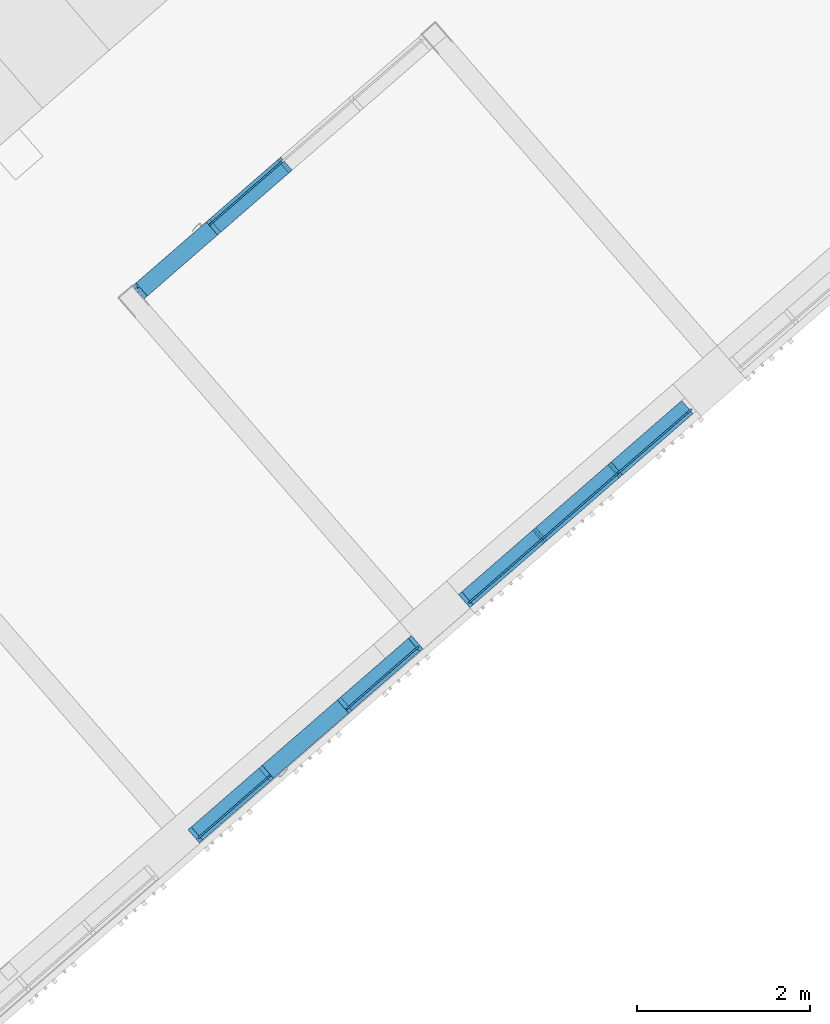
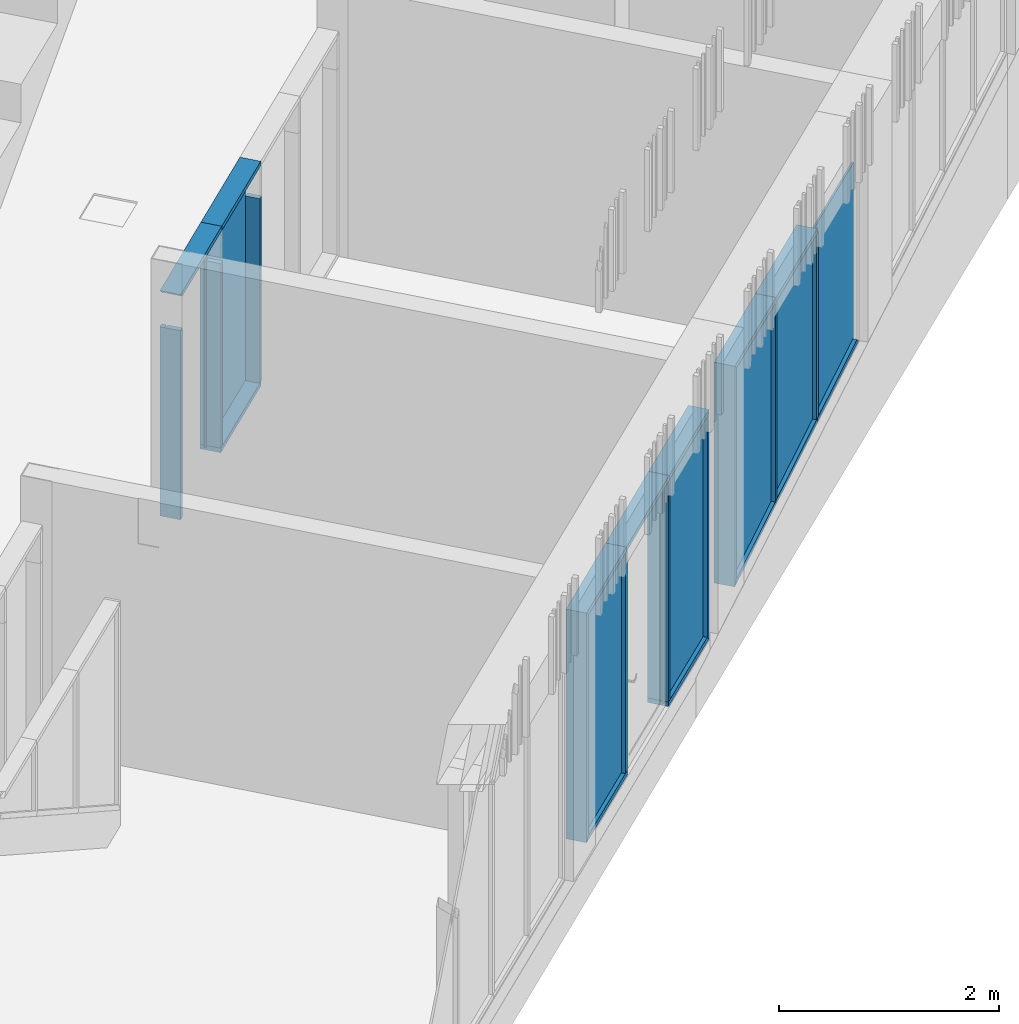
# One storey, part 11 of 124: 29 discrete accessories, 3 elements without a shape of their own.
"""IFC2X3 building model written with IfcOpenShell, lengths in millimetres."""

from ifc_helpers import new_model, entity, si_unit, converted_unit, derived_unit, money_unit, direction, frame, origin_with_axes, place, context, subcontext, project, spatial, polyline, outline, extrude, clip, halfspace, material, material_list, type_object, element, aggregate, save


model = new_model("IFC2X3")

# Units and contexts
model_context = context("Model", 3, precision=1e-05, world=origin_with_axes(), true_north=direction((0.0, 1.0)))
body_context = subcontext(model_context, "Body", "Model", "MODEL_VIEW")
ifc_project = project(units=[si_unit("LENGTHUNIT", "METRE", prefix="MILLI"), si_unit("AREAUNIT", "SQUARE_METRE"), si_unit("VOLUMEUNIT", "CUBIC_METRE"), converted_unit("PLANEANGLEUNIT", "DEGREE", entity("IfcPlaneAngleMeasure", 0.0174532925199), si_unit("PLANEANGLEUNIT", "RADIAN"), dimensions=[0, 0, 0, 0, 0, 0, 0]), si_unit("SOLIDANGLEUNIT", "STERADIAN"), money_unit("EUR"), converted_unit("TIMEUNIT", "Year", entity("IfcTimeMeasure", 31556926.0), si_unit("TIMEUNIT", "SECOND"), dimensions=[0, 0, 1, 0, 0, 0, 0]), si_unit("MASSUNIT", "GRAM", prefix="KILO"), si_unit("THERMODYNAMICTEMPERATUREUNIT", "DEGREE_CELSIUS"), si_unit("LUMINOUSINTENSITYUNIT", "LUMEN"), si_unit("ENERGYUNIT", "JOULE", prefix="MEGA"), derived_unit("THERMALCONDUCTANCEUNIT", [(si_unit("POWERUNIT", "WATT"), 1), (si_unit("LENGTHUNIT", "METRE"), -1), (si_unit("THERMODYNAMICTEMPERATUREUNIT", "KELVIN"), -1)]), derived_unit("SPECIFICHEATCAPACITYUNIT", [(si_unit("ENERGYUNIT", "JOULE"), 1), (si_unit("MASSUNIT", "GRAM", prefix="KILO"), -1), (si_unit("THERMODYNAMICTEMPERATUREUNIT", "KELVIN"), -1)]), derived_unit("MASSDENSITYUNIT", [(si_unit("MASSUNIT", "GRAM", prefix="KILO"), 1), (si_unit("VOLUMEUNIT", "CUBIC_METRE"), -1)])], contexts=[model_context])

# Site, building, storey
site_placement = place(None, origin_with_axes())
site = spatial("IfcSite", under=ifc_project, at=site_placement, Name="Site", CompositionType="ELEMENT")
building_placement = place(site_placement, origin_with_axes())
building = spatial("IfcBuilding", under=site, at=building_placement, Name="Building", CompositionType="ELEMENT")
storey_placement = place(building_placement, frame((0.0, 0.0, -1615.0), z_axis=(0.0, 0.0, 1.0), x_axis=(1.0, 0.0, 0.0)))
storey = spatial("IfcBuildingStorey", under=building, at=storey_placement, Name="0  korrus", CompositionType="ELEMENT", Elevation=-1615.0)

# Curtain wall, discrete accessories
curtain_wall_type_1 = type_object("IfcCurtainWallType", Name="KS-13", PredefinedType="NOTDEFINED")
curtain_wall_1_placement = place(storey_placement, frame((162918.061807, 93437.3475866, 0.0), z_axis=(0.0, 0.0, 1.0), x_axis=(1.0, 0.0, 0.0)))
curtain_wall_1 = element("IfcCurtainWall", 1, at=curtain_wall_1_placement, inside=storey, type_object=curtain_wall_type_1, Name="Klaas-sein")
ifc_material_1 = material(Name="Klaas")
discrete_accessory_type_1 = type_object("IfcDiscreteAccessoryType", Name="Distinct Panel 1090 x 380 x 20")
discrete_accessory_1_placement = place(curtain_wall_1_placement, frame((845.274728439, 734.786114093, 1533.33331403), z_axis=(0.0, 0.0, 1.0), x_axis=(-0.754709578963, -0.65605903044, 0.0)))
discrete_accessory_1 = element("IfcDiscreteAccessory", 2, at=discrete_accessory_1_placement, type_object=discrete_accessory_type_1, material=ifc_material_1, Name="KS-13 klaaspakett", context=body_context, shape_type="SweptSolid", body=[
    extrude(outline(polyline([(-544.999996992, -946.666643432), (544.999985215, -946.666643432), (544.999985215, 1513.3333294), (-544.999996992, 1513.3333294), (-544.999996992, -946.666643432)])), frame((0.0, -9.99999999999, 0.0), z_axis=(0.0, 1.0, 0.0), x_axis=(1.0, 0.0, 0.0)), (0.0, 0.0, 1.0), 20.0),
])
ifc_material_2 = material(Name="Aluminium MUST")
ifc_material_list = material_list([ifc_material_2, ifc_material_2])
discrete_accessory_type_2 = type_object("IfcDiscreteAccessoryType", Name="50 x 200")
discrete_accessory_2_placement = place(curtain_wall_1_placement, frame((433.958007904, 377.233942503, 0.0), z_axis=(0.0, 0.0, 1.0), x_axis=(-0.754709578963, -0.65605903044, 0.0)))
discrete_accessory_2 = element("IfcDiscreteAccessory", 3, at=discrete_accessory_2_placement, type_object=discrete_accessory_type_2, material=ifc_material_list, Name="KS-13 profiil", context=body_context, shape_type="SweptSolid", body=[
    extrude(outline(polyline([(-12.3071491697, -23.9485715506), (79.5411150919, -129.607912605), (117.27659404, -96.8049610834), (25.4283297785, 8.85437997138), (-12.3071491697, -23.9485715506)])), frame((0.0, 0.0, 50.0), z_axis=(0.0, 0.0, 1.0), x_axis=(-0.754709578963, 0.65605903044, 0.0)), (0.0, 0.0, 1.0), 2050.0),
    extrude(outline(polyline([(12.3071491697, 23.9485715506), (-13.9352120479, 54.1369547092), (-51.670690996, 21.3340031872), (-25.4283297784, -8.85437997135), (12.3071491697, 23.9485715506)])), frame((0.0, 0.0, 50.0), z_axis=(0.0, 0.0, 1.0), x_axis=(-0.754709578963, 0.65605903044, 0.0)), (0.0, 0.0, 1.0), 2050.0),
])
discrete_accessory_3_placement = place(curtain_wall_1_placement, frame((433.958007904, 377.233942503, 0.0), z_axis=(0.754709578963, 0.65605903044, 0.0), x_axis=(0.0, 0.0, 1.0)))
discrete_accessory_3 = element("IfcDiscreteAccessory", 4, at=discrete_accessory_3_placement, type_object=discrete_accessory_type_2, material=ifc_material_2, Name="KS-13 profiil", context=body_context, shape_type="SweptSolid", body=[
    extrude(outline(polyline([(9.99999999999, -25.0), (9.99999999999, -50.0), (150.0, -50.0), (150.0, 0.0), (-50.0, 0.0), (-50.0, -50.0), (-10.0, -50.0), (-10.0, -25.0), (9.99999999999, -25.0)])), frame((0.0, 0.0, -25.0), z_axis=(0.0, 0.0, 1.0), x_axis=(0.0, 1.0, 0.0)), (0.0, 0.0, 1.0), 1115.0),
])
discrete_accessory_4_placement = place(curtain_wall_1_placement, frame((1256.59144897, 1092.33828568, 2499.9999421), z_axis=(-0.754709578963, -0.65605903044, 0.0), x_axis=(0.0, 0.0, -1.0)))
discrete_accessory_4 = element("IfcDiscreteAccessory", 5, at=discrete_accessory_4_placement, type_object=discrete_accessory_type_2, material=ifc_material_2, Name="KS-13 profiil", context=body_context, shape_type="SweptSolid", body=[
    extrude(outline(polyline([(-9.99999999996, 25.0), (-9.99999999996, 50.0), (-150.0, 50.0), (-150.0, 0.0), (50.0, 0.0), (50.0, 50.0), (9.99999999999, 50.0), (9.99999999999, 25.0), (-9.99999999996, 25.0)])), frame((0.0, 0.0, 0.0), z_axis=(0.0, 0.0, 1.0), x_axis=(0.0, -1.0, 0.0)), (0.0, 0.0, 1.0), 1090.0),
])
discrete_accessory_5_placement = place(curtain_wall_1_placement, frame((1256.59144897, 1092.33828568, 0.0), z_axis=(0.0, 0.0, 1.0), x_axis=(-0.754709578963, -0.65605903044, 0.0)))
discrete_accessory_5 = element("IfcDiscreteAccessory", 6, at=discrete_accessory_5_placement, type_object=discrete_accessory_type_2, material=ifc_material_list, Name="KS-13 profiil", context=body_context, shape_type="SweptSolid", body=[
    extrude(outline(polyline([(-12.3071491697, -23.9485715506), (79.5411150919, -129.607912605), (117.27659404, -96.8049610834), (25.4283297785, 8.85437997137), (-12.3071491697, -23.9485715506)])), frame((0.0, 0.0, 50.0), z_axis=(0.0, 0.0, 1.0), x_axis=(-0.754709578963, 0.65605903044, 0.0)), (0.0, 0.0, 1.0), 2050.0),
    extrude(outline(polyline([(12.3071491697, 23.9485715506), (-13.9352120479, 54.1369547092), (-51.670690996, 21.3340031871), (-25.4283297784, -8.85437997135), (12.3071491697, 23.9485715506)])), frame((0.0, 0.0, 50.0), z_axis=(0.0, 0.0, 1.0), x_axis=(-0.754709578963, 0.65605903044, 0.0)), (0.0, 0.0, 1.0), 2050.0),
])
discrete_accessory_6_placement = place(curtain_wall_1_placement, frame((-433.958007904, -377.233942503, 0.0), z_axis=(0.0, 0.0, 1.0), x_axis=(-0.754709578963, -0.65605903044, 0.0)))
discrete_accessory_6 = element("IfcDiscreteAccessory", 7, at=discrete_accessory_6_placement, type_object=discrete_accessory_type_2, material=ifc_material_2, Name="KS-13 profiil", context=body_context, shape_type="SweptSolid", body=[
    extrude(outline(polyline([(25.4283297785, 8.85437997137), (12.3071491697, 23.9485715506), (31.1748886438, 40.3500473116), (4.93252742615, 70.5384304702), (-32.802951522, 37.7354789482), (98.4088545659, -113.206436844), (136.144333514, -80.4034853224), (44.2960692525, 25.2558557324), (25.4283297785, 8.85437997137)])), frame((0.0, 0.0, 0.0), z_axis=(0.0, 0.0, 1.0), x_axis=(-0.754709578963, 0.65605903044, 0.0)), (0.0, 0.0, 1.0), 2100.0),
])
discrete_accessory_7_placement = place(curtain_wall_1_placement, frame((433.958007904, 377.233942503, 2499.9999421), z_axis=(-0.754709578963, -0.65605903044, 0.0), x_axis=(0.0, 0.0, -1.0)))
discrete_accessory_7 = element("IfcDiscreteAccessory", 8, at=discrete_accessory_7_placement, type_object=discrete_accessory_type_2, material=ifc_material_2, Name="KS-13 profiil", context=body_context, shape_type="Clipping", body=[
    clip(extrude(outline(polyline([(-10.0, 25.0), (-10.0, 50.0), (-150.0, 50.0), (-150.0, 0.0), (50.0, 0.0), (50.0, 50.0), (9.99999999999, 50.0), (9.99999999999, 25.0), (-10.0, 25.0)])), frame((0.0, 0.0, 0.0), z_axis=(0.0, 0.0, 1.0), x_axis=(0.0, -1.0, 0.0)), (0.0, 0.0, 1.0), 1150.0), halfspace(frame((575.0, 0.0, 575.0), z_axis=(-0.707106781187, 0.0, -0.707106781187), x_axis=(0.0, 1.0, 0.0)), True)),
])
aggregate(curtain_wall_1, [discrete_accessory_1, discrete_accessory_2, discrete_accessory_3, discrete_accessory_4, discrete_accessory_5, discrete_accessory_6, discrete_accessory_7])

curtain_wall_type_2 = type_object("IfcCurtainWallType", Name="KLF-02", PredefinedType="NOTDEFINED")
curtain_wall_2_placement = place(storey_placement, frame((167619.863451, 90554.9930528, 100.000014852), z_axis=(0.0, 0.0, 1.0), x_axis=(1.0, 0.0, 0.0)))
curtain_wall_2 = element("IfcCurtainWall", 9, at=curtain_wall_2_placement, inside=storey, type_object=curtain_wall_type_2, Name="Klaasfassaad")
discrete_accessory_type_3 = type_object("IfcDiscreteAccessoryType", Name="Distinct Panel 1155 x 2262 x 20")
discrete_accessory_8_placement = place(curtain_wall_2_placement, frame((0.0, 0.0, 1335.98612304), z_axis=(0.0, 0.0, 1.0), x_axis=(-0.75470958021, -0.656059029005, 0.0)))
discrete_accessory_8 = element("IfcDiscreteAccessory", 10, at=discrete_accessory_8_placement, type_object=discrete_accessory_type_3, material=ifc_material_1, Name="KLF-02 klaaspakett", context=body_context, shape_type="SweptSolid", body=[
    extrude(outline(polyline([(-577.500007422, -1094.0139046), (577.500007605, -1094.0139046), (577.500007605, 1167.84114203), (-577.500007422, 1019.85969574), (-577.500007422, -1094.0139046)])), frame((0.0, -10.0, 0.0), z_axis=(0.0, 1.0, 0.0), x_axis=(1.0, 0.0, 0.0)), (0.0, 0.0, 1.0), 20.0),
])
discrete_accessory_type_4 = type_object("IfcDiscreteAccessoryType", Name="Distinct Panel 1135 x 2407 x 20")
discrete_accessory_9_placement = place(curtain_wall_2_placement, frame((-871.689565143, -757.7481785, 1261.99538681), z_axis=(0.0, 0.0, 1.0), x_axis=(-0.75470958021, -0.656059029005, 0.0)))
discrete_accessory_9 = element("IfcDiscreteAccessory", 11, at=discrete_accessory_9_placement, type_object=discrete_accessory_type_4, material=ifc_material_1, Name="KLF-02 klaaspakett", context=body_context, shape_type="SweptSolid", body=[
    extrude(outline(polyline([(-577.499985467, -1168.00463524), (557.499997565, -1168.00463524), (557.499997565, 1239.26941399), (-577.499985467, 1093.85038626), (-577.499985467, -1168.00463524)])), frame((0.0, -9.99999999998, 0.0), z_axis=(0.0, 1.0, 0.0), x_axis=(1.0, 0.0, 0.0)), (0.0, 0.0, 1.0), 20.0),
])
discrete_accessory_type_5 = type_object("IfcDiscreteAccessoryType", Name="Distinct Panel 1135 x 2114 x 20")
discrete_accessory_10_placement = place(curtain_wall_2_placement, frame((871.689566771, 757.748179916, 1409.97685927), z_axis=(0.0, 0.0, 1.0), x_axis=(-0.75470958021, -0.656059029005, 0.0)))
discrete_accessory_10 = element("IfcDiscreteAccessory", 12, at=discrete_accessory_10_placement, type_object=discrete_accessory_type_5, material=ifc_material_1, Name="KLF-02 klaaspakett", context=body_context, shape_type="SweptSolid", body=[
    extrude(outline(polyline([(-557.499987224, -1020.02316229), (577.500002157, -1020.02316229), (577.500002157, 1093.85043792), (-557.499987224, 948.431397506), (-557.499987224, -1020.02316229)])), frame((0.0, -10.0, 0.0), z_axis=(0.0, 1.0, 0.0), x_axis=(1.0, 0.0, 0.0)), (0.0, 0.0, 1.0), 20.0),
])
discrete_accessory_type_6 = type_object("IfcDiscreteAccessoryType", Name="50 x 200")
discrete_accessory_11_placement = place(curtain_wall_2_placement, frame((435.844782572, 378.87408925, 295.962944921), z_axis=(0.0, 0.0, 1.0), x_axis=(-0.75470958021, -0.656059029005, 0.0)))
discrete_accessory_11 = element("IfcDiscreteAccessory", 13, at=discrete_accessory_11_placement, type_object=discrete_accessory_type_6, material=ifc_material_list, Name="KLF-02 profiil", context=body_context, shape_type="Clipping", body=[
    clip(extrude(outline(polyline([(-117.276593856, 96.8049613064), (-25.4283297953, -8.85437992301), (12.3071492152, 23.9485715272), (-79.5411148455, 129.607912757), (-117.276593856, 96.8049613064)])), frame((0.0, 0.0, 47.2056512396), z_axis=(0.0, 0.0, 1.0), x_axis=(-0.75470958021, 0.656059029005, 0.0)), (0.0, 0.0, 1.0), 2056.83142833), halfspace(frame((6.35418456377, 0.0, 49.5945998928), z_axis=(0.127083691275, 0.0, 0.991891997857), x_axis=(0.0, -1.0, 0.0)), True)),
    clip(extrude(outline(polyline([(51.6706909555, -21.3340032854), (25.4283297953, 8.85437992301), (-12.3071492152, -23.9485715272), (13.935211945, -54.1369547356), (51.6706909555, -21.3340032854)])), frame((0.0, 0.0, 47.2056512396), z_axis=(0.0, 0.0, 1.0), x_axis=(-0.75470958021, 0.656059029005, 0.0)), (0.0, 0.0, 1.0), 2056.83142833), halfspace(frame((6.35418456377, 0.0, 49.5945998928), z_axis=(0.127083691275, 0.0, 0.991891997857), x_axis=(0.0, -1.0, 0.0)), True)),
])
discrete_accessory_12_placement = place(curtain_wall_2_placement, frame((435.844782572, 378.87408925, 295.962944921), z_axis=(0.748590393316, 0.650739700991, 0.127083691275), x_axis=(-0.095911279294, -0.0833744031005, 0.991891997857)))
discrete_accessory_12 = element("IfcDiscreteAccessory", 14, at=discrete_accessory_12_placement, type_object=discrete_accessory_type_6, material=ifc_material_2, Name="KLF-02 profiil", context=body_context, shape_type="Clipping", body=[
    clip(extrude(outline(polyline([(-9.99999999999, -25.0), (9.99999999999, -25.0), (10.0, -50.0), (50.0, -50.0), (50.0, 0.0), (-150.0, 0.0), (-150.0, -50.0), (-10.0, -50.0), (-9.99999999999, -25.0)])), frame((0.0, 0.0, -1.08778408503e-06), z_axis=(0.0, 0.0, 1.0), x_axis=(0.0, 1.0, 0.0)), (0.0, 0.0, 1.0), 1164.44129793), halfspace(frame((577.500002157, 0.0, 656.211397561), z_axis=(-0.660649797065, 0.0, -0.750694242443), x_axis=(0.0, 1.0, 0.0)), True)),
])
discrete_accessory_13_placement = place(curtain_wall_2_placement, frame((-1307.53434771, -1136.62226775, 2450.00002449), z_axis=(0.75470958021, 0.656059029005, 0.0), x_axis=(0.0, 0.0, 1.0)))
discrete_accessory_13 = element("IfcDiscreteAccessory", 15, at=discrete_accessory_13_placement, type_object=discrete_accessory_type_6, material=ifc_material_2, Name="KLF-02 profiil", context=body_context, shape_type="Clipping", body=[
    clip(extrude(outline(polyline([(-10.0, 25.0), (-10.0, 50.0), (-150.0, 50.0), (-150.0, 0.0), (50.0, 0.0), (50.0, 50.0), (9.99999999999, 50.0), (9.99999999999, 25.0), (-10.0, 25.0)])), frame((0.0, 0.0, 0.0), z_axis=(0.0, 0.0, 1.0), x_axis=(0.0, 1.0, 0.0)), (0.0, 0.0, 1.0), 1155.0), halfspace(frame((0.0, 0.0, 0.0), z_axis=(0.707106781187, 0.0, 0.707106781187), x_axis=(0.0, -1.0, 0.0)), True)),
])
discrete_accessory_14_placement = place(curtain_wall_2_placement, frame((-1307.53434771, -1136.62226775, 0.0), z_axis=(0.748590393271, 0.650739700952, 0.127083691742), x_axis=(-0.0959112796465, -0.0833744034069, 0.991891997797)))
discrete_accessory_14 = element("IfcDiscreteAccessory", 16, at=discrete_accessory_14_placement, type_object=discrete_accessory_type_6, material=ifc_material_2, Name="KLF-02 profiil", context=body_context, shape_type="Clipping", body=[
    clip(extrude(outline(polyline([(-10.0, -25.0), (10.0, -25.0), (10.0, -50.0), (50.0, -50.0), (50.0, 0.0), (-150.0, 0.0), (-150.0, -50.0), (-10.0, -50.0), (-10.0, -25.0)])), frame((0.0, 0.0, 0.0), z_axis=(0.0, 0.0, 1.0), x_axis=(0.0, 1.0, 0.0)), (0.0, 0.0, 1.0), 1164.44129367), halfspace(frame((0.0, 0.0, 0.0), z_axis=(-0.750694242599, 0.0, 0.660649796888), x_axis=(0.0, -1.0, 0.0)), True)),
])
discrete_accessory_15_placement = place(curtain_wall_2_placement, frame((-435.844782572, -378.87408925, 147.981498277), z_axis=(0.74859039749, 0.650739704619, 0.127083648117), x_axis=(-0.0959112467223, -0.0833743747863, 0.991892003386)))
discrete_accessory_15 = element("IfcDiscreteAccessory", 17, at=discrete_accessory_15_placement, type_object=discrete_accessory_type_6, material=ifc_material_2, Name="KLF-02 profiil", context=body_context, shape_type="SweptSolid", body=[
    extrude(outline(polyline([(-10.0, -25.0), (10.0, -25.0), (10.0, -50.0), (50.0, -50.0), (50.0, 0.0), (-150.0, 0.0), (-150.0, -50.0), (-10.0, -50.0), (-10.0, -25.0)])), frame((0.0, 0.0, -1.09955067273e-06), z_axis=(0.0, 0.0, 1.0), x_axis=(0.0, 1.0, 0.0)), (0.0, 0.0, 1.0), 1164.44128819),
])
discrete_accessory_16_placement = place(curtain_wall_2_placement, frame((-1307.53434771, -1136.62226775, 0.0), z_axis=(0.0, 0.0, 1.0), x_axis=(-0.75470958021, -0.656059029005, 0.0)))
discrete_accessory_16 = element("IfcDiscreteAccessory", 18, at=discrete_accessory_16_placement, type_object=discrete_accessory_type_6, material=ifc_material_2, Name="KLF-02 profiil", context=body_context, shape_type="Clipping", body=[
    clip(clip(extrude(outline(polyline([(12.3071492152, 23.9485715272), (31.1748887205, 40.3500472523), (-60.6733753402, 146.009388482), (-98.4088543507, 113.206437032), (32.8029514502, -37.7354790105), (70.5384304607, -4.93252756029), (44.2960693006, 25.2558556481), (25.4283297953, 8.85437992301), (12.3071492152, 23.9485715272)])), frame((0.0, 0.0, 0.0), z_axis=(0.0, 0.0, 1.0), x_axis=(-0.75470958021, 0.656059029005, 0.0)), (0.0, 0.0, 1.0), 2450.00002449), halfspace(frame((-1225.00001224, 0.0, 1225.00001224), z_axis=(0.707106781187, 0.0, -0.707106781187), x_axis=(0.0, 1.0, 0.0)), True)), halfspace(frame((0.0, 0.0, 0.0), z_axis=(0.750694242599, 0.0, 0.660649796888), x_axis=(0.0, -1.0, 0.0)), True)),
])
discrete_accessory_17_placement = place(curtain_wall_2_placement, frame((-435.844782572, -378.87408925, 147.981498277), z_axis=(0.0, 0.0, 1.0), x_axis=(-0.75470958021, -0.656059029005, 0.0)))
discrete_accessory_17 = element("IfcDiscreteAccessory", 19, at=discrete_accessory_17_placement, type_object=discrete_accessory_type_6, material=ifc_material_list, Name="KLF-02 profiil", context=body_context, shape_type="Clipping", body=[
    clip(extrude(outline(polyline([(-117.276593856, 96.8049613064), (-25.4283297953, -8.85437992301), (12.3071492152, 23.9485715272), (-79.5411148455, 129.607912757), (-117.276593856, 96.8049613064)])), frame((0.0, 0.0, 47.2056520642), z_axis=(0.0, 0.0, 1.0), x_axis=(-0.75470958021, 0.656059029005, 0.0)), (0.0, 0.0, 1.0), 2204.81287415), halfspace(frame((6.35418240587, 0.0, 49.5946001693), z_axis=(0.127083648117, 0.0, 0.991892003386), x_axis=(0.0, -1.0, 0.0)), True)),
    clip(extrude(outline(polyline([(51.6706909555, -21.3340032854), (25.4283297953, 8.85437992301), (-12.3071492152, -23.9485715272), (13.935211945, -54.1369547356), (51.6706909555, -21.3340032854)])), frame((0.0, 0.0, 47.2056520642), z_axis=(0.0, 0.0, 1.0), x_axis=(-0.75470958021, 0.656059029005, 0.0)), (0.0, 0.0, 1.0), 2204.81287415), halfspace(frame((6.35418240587, 0.0, 49.5946001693), z_axis=(0.127083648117, 0.0, 0.991892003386), x_axis=(0.0, -1.0, 0.0)), True)),
])
discrete_accessory_18_placement = place(curtain_wall_2_placement, frame((-435.844782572, -378.87408925, 2450.00002449), z_axis=(0.75470958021, 0.656059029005, 0.0), x_axis=(0.0, 0.0, 1.0)))
discrete_accessory_18 = element("IfcDiscreteAccessory", 20, at=discrete_accessory_18_placement, type_object=discrete_accessory_type_6, material=ifc_material_2, Name="KLF-02 profiil", context=body_context, shape_type="SweptSolid", body=[
    extrude(outline(polyline([(-10.0, 25.0), (-10.0, 50.0), (-150.0, 50.0), (-150.0, 0.0), (50.0, 0.0), (50.0, 50.0), (10.0, 50.0), (10.0, 25.0), (-10.0, 25.0)])), frame((0.0, 0.0, 0.0), z_axis=(0.0, 0.0, 1.0), x_axis=(0.0, 1.0, 0.0)), (0.0, 0.0, 1.0), 1155.0),
])
aggregate(curtain_wall_2, [discrete_accessory_8, discrete_accessory_9, discrete_accessory_10, discrete_accessory_11, discrete_accessory_12, discrete_accessory_13, discrete_accessory_14, discrete_accessory_15, discrete_accessory_16, discrete_accessory_17, discrete_accessory_18])

curtain_wall_type_3 = type_object("IfcCurtainWallType", Name="KLF-03", PredefinedType="NOTDEFINED")
curtain_wall_3_placement = place(storey_placement, frame((165350.074435, 88581.8954704, 0.0), z_axis=(0.0, 0.0, 1.0), x_axis=(1.0, 0.0, 0.0)))
curtain_wall_3 = element("IfcCurtainWall", 21, at=curtain_wall_3_placement, inside=storey, type_object=curtain_wall_type_3, Name="Klaasfassaad")
discrete_accessory_type_7 = type_object("IfcDiscreteAccessoryType", Name="Distinct Panel 1090 x 2510 x 20")
discrete_accessory_19_placement = place(curtain_wall_3_placement, frame((0.0, 0.0, 1275.00001896), z_axis=(0.0, 0.0, 1.0), x_axis=(0.754709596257, 0.656059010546, 0.0)))
discrete_accessory_19 = element("IfcDiscreteAccessory", 22, at=discrete_accessory_19_placement, type_object=discrete_accessory_type_7, material=ifc_material_1, Name="KLF-03 klaaspakett", context=body_context, shape_type="SweptSolid", body=[
    extrude(outline(polyline([(-554.999982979, -1255.00000078), (534.999981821, -1255.00000078), (534.999981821, 1255.00000078), (-554.999982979, 1255.00000078), (-554.999982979, -1255.00000078)])), frame((0.0, -10.0, 0.0), z_axis=(0.0, 1.0, 0.0), x_axis=(1.0, 0.0, 0.0)), (0.0, 0.0, 1.0), 20.0),
])
discrete_accessory_20_placement = place(curtain_wall_3_placement, frame((-1743.37916812, -1515.49631502, 1275.00001896), z_axis=(0.0, 0.0, 1.0), x_axis=(0.754709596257, 0.656059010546, 0.0)))
discrete_accessory_20 = element("IfcDiscreteAccessory", 23, at=discrete_accessory_20_placement, type_object=discrete_accessory_type_7, material=ifc_material_1, Name="KLF-03 klaaspakett", context=body_context, shape_type="SweptSolid", body=[
    extrude(outline(polyline([(-535.000001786, -1255.00000078), (555.000001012, -1255.00000078), (555.000001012, 1255.00000078), (-535.000001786, 1255.00000078), (-535.000001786, -1255.00000078)])), frame((0.0, -9.99999999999, 0.0), z_axis=(0.0, 1.0, 0.0), x_axis=(1.0, 0.0, 0.0)), (0.0, 0.0, 1.0), 20.0),
])
discrete_accessory_type_8 = type_object("IfcDiscreteAccessoryType", Name="50 x 200")
discrete_accessory_21_placement = place(curtain_wall_3_placement, frame((418.863825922, 364.112750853, 0.0), z_axis=(-0.754709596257, -0.656059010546, 0.0), x_axis=(0.0, 0.0, 1.0)))
discrete_accessory_21 = element("IfcDiscreteAccessory", 24, at=discrete_accessory_21_placement, type_object=discrete_accessory_type_8, Name="KLF-03 profiil", context=body_context, shape_type="Clipping", body=[
    clip(extrude(outline(polyline([(10.0, -25.0), (10.0, 0.0), (-9.99999999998, 0.0), (-9.99999999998, -25.0), (10.0, -25.0)])), frame((0.0, 0.0, 0.0), z_axis=(0.0, 0.0, 1.0), x_axis=(0.0, 1.0, 0.0)), (0.0, 0.0, 1.0), 1135.0), halfspace(frame((0.0, 0.0, 0.0), z_axis=(-0.707106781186, 0.0, 0.707106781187), x_axis=(0.0, -1.0, 0.0)), True)),
    clip(extrude(outline(polyline([(150.0, -50.0), (150.0, 0.0), (10.0, 0.0), (10.0, -50.0), (150.0, -50.0)])), frame((0.0, 0.0, 0.0), z_axis=(0.0, 0.0, 1.0), x_axis=(0.0, 1.0, 0.0)), (0.0, 0.0, 1.0), 1135.0), halfspace(frame((0.0, 0.0, 0.0), z_axis=(-0.707106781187, 0.0, 0.707106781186), x_axis=(0.0, -1.0, 0.0)), True)),
    clip(extrude(outline(polyline([(-50.0, 0.0), (-50.0, -50.0), (-9.99999999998, -50.0), (-9.99999999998, 0.0), (-50.0, 0.0)])), frame((0.0, 0.0, 0.0), z_axis=(0.0, 0.0, 1.0), x_axis=(0.0, 1.0, 0.0)), (0.0, 0.0, 1.0), 1135.0), halfspace(frame((0.0, 0.0, 0.0), z_axis=(-0.707106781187, 0.0, 0.707106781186), x_axis=(0.0, -1.0, 0.0)), True)),
])
discrete_accessory_22_placement = place(curtain_wall_3_placement, frame((418.863825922, 364.112750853, 0.0), z_axis=(0.0, 0.0, 1.0), x_axis=(0.754709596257, 0.656059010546, 0.0)))
discrete_accessory_22 = element("IfcDiscreteAccessory", 25, at=discrete_accessory_22_placement, type_object=discrete_accessory_type_8, Name="KLF-03 profiil", context=body_context, shape_type="Clipping", body=[
    clip(clip(extrude(outline(polyline([(-25.4283300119, -8.85437930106), (-12.3071498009, -23.9485712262), (6.56059010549, -7.54709596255), (-6.56059010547, 7.54709596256), (-25.4283300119, -8.85437930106)])), frame((0.0, 0.0, 0.0), z_axis=(0.0, 0.0, 1.0), x_axis=(0.754709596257, -0.656059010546, 0.0)), (0.0, 0.0, 1.0), 2550.00003792), halfspace(frame((-1275.00001896, -9.05942001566e-10, 1275.00001896), z_axis=(0.707106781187, 0.0, -0.707106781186), x_axis=(0.0, 1.0, 0.0)), True)), halfspace(frame((0.0, 0.0, 0.0), z_axis=(0.707106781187, 0.0, 0.707106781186), x_axis=(0.0, -1.0, 0.0)), True)),
    clip(clip(extrude(outline(polyline([(-136.144331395, 80.4034889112), (-44.2960699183, -25.2558545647), (-6.56059010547, 7.54709596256), (-98.4088515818, 113.206439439), (-136.144331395, 80.4034889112)])), frame((0.0, 0.0, 0.0), z_axis=(0.0, 0.0, 1.0), x_axis=(0.754709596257, -0.656059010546, 0.0)), (0.0, 0.0, 1.0), 2550.00003792), halfspace(frame((-1275.00001896, 1.29420285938e-10, 1275.00001896), z_axis=(0.707106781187, 0.0, -0.707106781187), x_axis=(0.0, 1.0, 0.0)), True)), halfspace(frame((0.0, 0.0, 0.0), z_axis=(0.707106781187, 0.0, 0.707106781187), x_axis=(0.0, -1.0, 0.0)), True)),
    clip(clip(extrude(outline(polyline([(32.8029505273, -37.7354798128), (6.56059010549, -7.54709596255), (-31.1748897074, -40.3500464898), (-4.93252928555, -70.5384303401), (32.8029505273, -37.7354798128)])), frame((0.0, 0.0, 0.0), z_axis=(0.0, 0.0, 1.0), x_axis=(0.754709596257, -0.656059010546, 0.0)), (0.0, 0.0, 1.0), 2550.00003792), halfspace(frame((-1275.00001896, 4.52971000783e-10, 1275.00001896), z_axis=(0.707106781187, 0.0, -0.707106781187), x_axis=(0.0, 1.0, 0.0)), True)), halfspace(frame((0.0, 0.0, 0.0), z_axis=(0.707106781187, 0.0, 0.707106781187), x_axis=(0.0, -1.0, 0.0)), True)),
])
discrete_accessory_23_placement = place(curtain_wall_3_placement, frame((-418.863825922, -364.112750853, 0.0), z_axis=(0.0, 0.0, 1.0), x_axis=(0.754709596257, 0.656059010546, 0.0)))
discrete_accessory_23 = element("IfcDiscreteAccessory", 26, at=discrete_accessory_23_placement, type_object=discrete_accessory_type_8, material=ifc_material_list, Name="KLF-03 profiil", context=body_context, shape_type="SweptSolid", body=[
    extrude(outline(polyline([(12.307149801, 23.9485712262), (-79.5411116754, 129.607914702), (-117.276591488, 96.8049641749), (-25.4283300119, -8.85437930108), (12.307149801, 23.9485712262)])), frame((0.0, 0.0, 50.0), z_axis=(0.0, 0.0, 1.0), x_axis=(0.754709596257, -0.656059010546, 0.0)), (0.0, 0.0, 1.0), 2450.00003792),
    extrude(outline(polyline([(-12.307149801, -23.9485712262), (13.9352106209, -54.1369550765), (51.6706904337, -21.3340045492), (25.4283300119, 8.85437930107), (-12.307149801, -23.9485712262)])), frame((0.0, 0.0, 50.0), z_axis=(0.0, 0.0, 1.0), x_axis=(0.754709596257, -0.656059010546, 0.0)), (0.0, 0.0, 1.0), 2450.00003792),
])
discrete_accessory_24_placement = place(curtain_wall_3_placement, frame((-1324.51534143, -1151.38356351, 0.0), z_axis=(-0.754709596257, -0.656059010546, 0.0), x_axis=(0.0, 0.0, 1.0)))
discrete_accessory_24 = element("IfcDiscreteAccessory", 27, at=discrete_accessory_24_placement, type_object=discrete_accessory_type_8, Name="KLF-03 profiil", context=body_context, shape_type="Clipping", body=[
    clip(extrude(outline(polyline([(10.0, -25.0), (10.0, 0.0), (-10.0, 0.0), (-9.99999999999, -25.0), (10.0, -25.0)])), frame((0.0, 0.0, -25.0), z_axis=(0.0, 0.0, 1.0), x_axis=(0.0, 1.0, 0.0)), (0.0, 0.0, 1.0), 1135.00000202), halfspace(frame((555.000001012, 0.0, 555.000001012), z_axis=(-0.707106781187, 0.0, -0.707106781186), x_axis=(0.0, 1.0, 0.0)), True)),
    clip(extrude(outline(polyline([(150.0, -50.0), (150.0, 0.0), (10.0, 0.0), (9.99999999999, -50.0), (150.0, -50.0)])), frame((0.0, 0.0, -25.0), z_axis=(0.0, 0.0, 1.0), x_axis=(0.0, 1.0, 0.0)), (0.0, 0.0, 1.0), 1135.00000202), halfspace(frame((555.000001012, 0.0, 555.000001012), z_axis=(-0.707106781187, 0.0, -0.707106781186), x_axis=(0.0, 1.0, 0.0)), True)),
    clip(extrude(outline(polyline([(-50.0, 0.0), (-50.0, -50.0), (-9.99999999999, -50.0), (-10.0, 0.0), (-50.0, 0.0)])), frame((0.0, 0.0, -25.0), z_axis=(0.0, 0.0, 1.0), x_axis=(0.0, 1.0, 0.0)), (0.0, 0.0, 1.0), 1135.00000202), halfspace(frame((555.000001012, -1.97187644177e-10, 555.000001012), z_axis=(-0.707106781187, 0.0, -0.707106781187), x_axis=(0.0, 1.0, 0.0)), True)),
])
discrete_accessory_25_placement = place(curtain_wall_3_placement, frame((-1324.51534143, -1151.38356351, 0.0), z_axis=(0.0, 0.0, 1.0), x_axis=(0.754709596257, 0.656059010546, 0.0)))
discrete_accessory_25 = element("IfcDiscreteAccessory", 28, at=discrete_accessory_25_placement, type_object=discrete_accessory_type_8, material=ifc_material_list, Name="KLF-03 profiil", context=body_context, shape_type="SweptSolid", body=[
    extrude(outline(polyline([(12.307149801, 23.9485712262), (-79.5411116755, 129.607914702), (-117.276591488, 96.8049641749), (-25.4283300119, -8.85437930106), (12.307149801, 23.9485712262)])), frame((0.0, 0.0, 50.0), z_axis=(0.0, 0.0, 1.0), x_axis=(0.754709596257, -0.656059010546, 0.0)), (0.0, 0.0, 1.0), 2450.00003792),
    extrude(outline(polyline([(-12.307149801, -23.9485712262), (13.9352106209, -54.1369550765), (51.6706904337, -21.3340045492), (25.4283300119, 8.85437930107), (-12.307149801, -23.9485712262)])), frame((0.0, 0.0, 50.0), z_axis=(0.0, 0.0, 1.0), x_axis=(0.754709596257, -0.656059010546, 0.0)), (0.0, 0.0, 1.0), 2450.00003792),
])
discrete_accessory_26_placement = place(curtain_wall_3_placement, frame((-1324.51534143, -1151.38356351, 2550.00003792), z_axis=(-0.754709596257, -0.656059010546, 0.0), x_axis=(0.0, 0.0, 1.0)))
discrete_accessory_26 = element("IfcDiscreteAccessory", 29, at=discrete_accessory_26_placement, type_object=discrete_accessory_type_8, Name="KLF-03 profiil", context=body_context, shape_type="Clipping", body=[
    clip(extrude(outline(polyline([(10.0, 25.0), (-9.99999999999, 25.0), (-10.0, 0.0), (10.0, 0.0), (10.0, 25.0)])), frame((0.0, 0.0, 0.0), z_axis=(0.0, 0.0, 1.0), x_axis=(0.0, 1.0, 0.0)), (0.0, 0.0, 1.0), 1110.00000202), halfspace(frame((-555.000001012, 0.0, 555.000001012), z_axis=(0.707106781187, 0.0, -0.707106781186), x_axis=(0.0, 1.0, 0.0)), True)),
    clip(extrude(outline(polyline([(150.0, 50.0), (9.99999999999, 50.0), (10.0, 0.0), (150.0, 0.0), (150.0, 50.0)])), frame((0.0, 0.0, 0.0), z_axis=(0.0, 0.0, 1.0), x_axis=(0.0, 1.0, 0.0)), (0.0, 0.0, 1.0), 1110.00000202), halfspace(frame((-555.000001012, 0.0, 555.000001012), z_axis=(0.707106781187, 0.0, -0.707106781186), x_axis=(0.0, 1.0, 0.0)), True)),
    clip(extrude(outline(polyline([(-50.0, 0.0), (-10.0, 0.0), (-9.99999999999, 50.0), (-50.0, 50.0), (-50.0, 0.0)])), frame((0.0, 0.0, 0.0), z_axis=(0.0, 0.0, 1.0), x_axis=(0.0, 1.0, 0.0)), (0.0, 0.0, 1.0), 1110.00000202), halfspace(frame((-555.000001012, -1.97175609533e-10, 555.000001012), z_axis=(0.707106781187, 0.0, -0.707106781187), x_axis=(0.0, 1.0, 0.0)), True)),
])
discrete_accessory_27_placement = place(curtain_wall_3_placement, frame((-418.863825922, -364.112750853, 2550.00003792), z_axis=(-0.754709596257, -0.656059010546, 0.0), x_axis=(0.0, 0.0, 1.0)))
discrete_accessory_27 = element("IfcDiscreteAccessory", 30, at=discrete_accessory_27_placement, type_object=discrete_accessory_type_8, Name="KLF-03 profiil", context=body_context, shape_type="SweptSolid", body=[
    extrude(outline(polyline([(10.0, 25.0), (-9.99999999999, 25.0), (-9.99999999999, 0.0), (10.0, 0.0), (10.0, 25.0)])), frame((0.0, 0.0, 0.0), z_axis=(0.0, 0.0, 1.0), x_axis=(0.0, 1.0, 0.0)), (0.0, 0.0, 1.0), 1200.0),
    extrude(outline(polyline([(150.0, 50.0), (10.0, 50.0), (10.0, 0.0), (150.0, 0.0), (150.0, 50.0)])), frame((0.0, 0.0, 0.0), z_axis=(0.0, 0.0, 1.0), x_axis=(0.0, 1.0, 0.0)), (0.0, 0.0, 1.0), 1200.0),
    extrude(outline(polyline([(-50.0, 0.0), (-9.99999999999, 0.0), (-9.99999999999, 50.0), (-50.0, 50.0), (-50.0, 0.0)])), frame((0.0, 0.0, 0.0), z_axis=(0.0, 0.0, 1.0), x_axis=(0.0, 1.0, 0.0)), (0.0, 0.0, 1.0), 1200.0),
])
discrete_accessory_28_placement = place(curtain_wall_3_placement, frame((-2162.2429948, -1879.60906654, 0.0), z_axis=(0.0, 0.0, 1.0), x_axis=(0.754709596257, 0.656059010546, 0.0)))
discrete_accessory_28 = element("IfcDiscreteAccessory", 31, at=discrete_accessory_28_placement, type_object=discrete_accessory_type_8, Name="KLF-03 profiil", context=body_context, shape_type="Clipping", body=[
    clip(clip(extrude(outline(polyline([(12.307149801, 23.9485712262), (-6.56059010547, 7.54709596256), (6.56059010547, -7.54709596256), (25.4283300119, 8.85437930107), (12.307149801, 23.9485712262)])), frame((0.0, 0.0, 0.0), z_axis=(0.0, 0.0, 1.0), x_axis=(0.754709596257, -0.656059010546, 0.0)), (0.0, 0.0, 1.0), 2550.00003792), halfspace(frame((0.0, 0.0, 0.0), z_axis=(-0.707106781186, 0.0, 0.707106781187), x_axis=(0.0, -1.0, 0.0)), True)), halfspace(frame((1275.00001896, 0.0, 1275.00001896), z_axis=(-0.707106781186, 0.0, -0.707106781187), x_axis=(0.0, 1.0, 0.0)), True)),
    clip(clip(extrude(outline(polyline([(-60.673371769, 146.009389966), (-98.4088515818, 113.206439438), (-6.56059010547, 7.54709596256), (31.1748897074, 40.3500464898), (-60.673371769, 146.009389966)])), frame((0.0, 0.0, 0.0), z_axis=(0.0, 0.0, 1.0), x_axis=(0.754709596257, -0.656059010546, 0.0)), (0.0, 0.0, 1.0), 2550.00003792), halfspace(frame((0.0, 0.0, 0.0), z_axis=(-0.707106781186, 0.0, 0.707106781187), x_axis=(0.0, -1.0, 0.0)), True)), halfspace(frame((1275.00001896, 0.0, 1275.00001896), z_axis=(-0.707106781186, 0.0, -0.707106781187), x_axis=(0.0, 1.0, 0.0)), True)),
    clip(clip(extrude(outline(polyline([(32.8029505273, -37.7354798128), (70.5384303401, -4.93252928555), (44.2960699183, 25.2558545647), (6.56059010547, -7.54709596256), (32.8029505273, -37.7354798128)])), frame((0.0, 0.0, 0.0), z_axis=(0.0, 0.0, 1.0), x_axis=(0.754709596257, -0.656059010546, 0.0)), (0.0, 0.0, 1.0), 2550.00003792), halfspace(frame((0.0, 0.0, 0.0), z_axis=(-0.707106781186, 0.0, 0.707106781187), x_axis=(0.0, -1.0, 0.0)), True)), halfspace(frame((1275.00001896, 0.0, 1275.00001896), z_axis=(-0.707106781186, 0.0, -0.707106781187), x_axis=(0.0, 1.0, 0.0)), True)),
])
discrete_accessory_29_placement = place(curtain_wall_3_placement, frame((418.863825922, 364.112750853, 2550.00003792), z_axis=(-0.754709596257, -0.656059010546, 0.0), x_axis=(0.0, 0.0, 1.0)))
discrete_accessory_29 = element("IfcDiscreteAccessory", 32, at=discrete_accessory_29_placement, type_object=discrete_accessory_type_8, Name="KLF-03 profiil", context=body_context, shape_type="Clipping", body=[
    clip(extrude(outline(polyline([(9.99999999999, 25.0), (-9.99999999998, 25.0), (-9.99999999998, 0.0), (9.99999999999, 0.0), (9.99999999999, 25.0)])), frame((0.0, 0.0, 0.0), z_axis=(0.0, 0.0, 1.0), x_axis=(0.0, 1.0, 0.0)), (0.0, 0.0, 1.0), 1110.0), halfspace(frame((0.0, 0.0, 0.0), z_axis=(0.707106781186, 0.0, 0.707106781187), x_axis=(0.0, -1.0, 0.0)), True)),
    clip(extrude(outline(polyline([(150.0, 50.0), (9.99999999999, 50.0), (9.99999999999, 0.0), (150.0, 0.0), (150.0, 50.0)])), frame((0.0, 0.0, 0.0), z_axis=(0.0, 0.0, 1.0), x_axis=(0.0, 1.0, 0.0)), (0.0, 0.0, 1.0), 1110.0), halfspace(frame((0.0, 0.0, 0.0), z_axis=(0.707106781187, 0.0, 0.707106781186), x_axis=(0.0, -1.0, 0.0)), True)),
    clip(extrude(outline(polyline([(-50.0, 0.0), (-9.99999999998, 0.0), (-9.99999999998, 50.0), (-50.0, 50.0), (-50.0, 0.0)])), frame((0.0, 0.0, 0.0), z_axis=(0.0, 0.0, 1.0), x_axis=(0.0, 1.0, 0.0)), (0.0, 0.0, 1.0), 1110.0), halfspace(frame((0.0, 0.0, 0.0), z_axis=(0.707106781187, 0.0, 0.707106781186), x_axis=(0.0, -1.0, 0.0)), True)),
])
aggregate(curtain_wall_3, [discrete_accessory_19, discrete_accessory_20, discrete_accessory_21, discrete_accessory_22, discrete_accessory_23, discrete_accessory_24, discrete_accessory_25, discrete_accessory_26, discrete_accessory_27, discrete_accessory_28, discrete_accessory_29])

save(model, "model.ifc")
